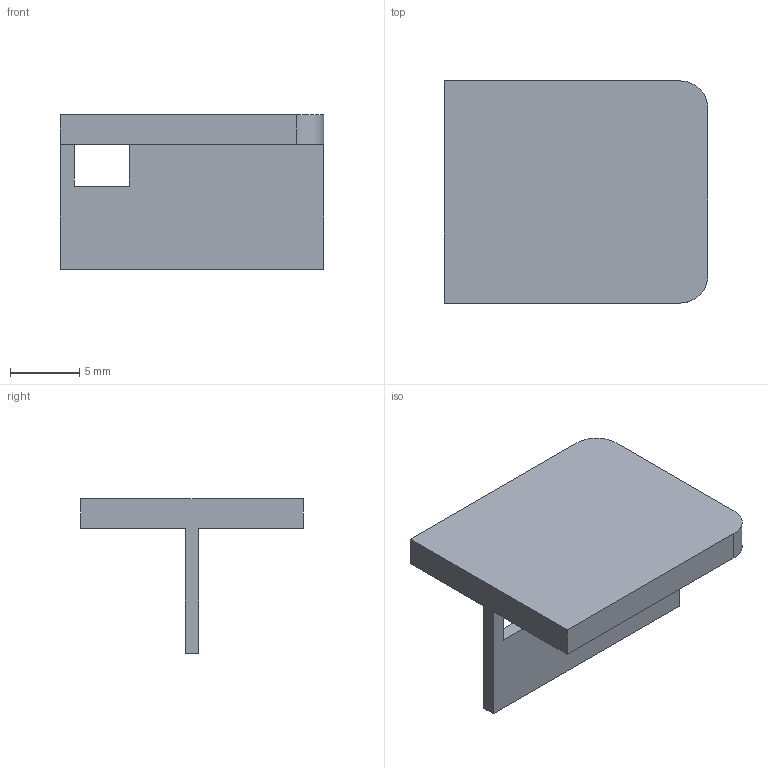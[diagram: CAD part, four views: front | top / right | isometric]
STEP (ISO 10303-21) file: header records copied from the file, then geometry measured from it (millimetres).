
FILE_DESCRIPTION(('FreeCAD Model'),'2;1');
FILE_NAME('Open CASCADE Shape Model','2026-05-04T21:27:15',(''),(''), 'Open CASCADE STEP processor 7.8','FreeCAD','Unknown');
FILE_SCHEMA(('AUTOMOTIVE_DESIGN { 1 0 10303 214 1 1 1 1 }'));
Length unit declared in the file: millimetre
Products named in the file (1): megnetholder_inside
Bounding box: 19 x 16 x 11.15 mm (x, y, z)
Volume: 782.3 mm3; surface area: 1127.5 mm2
Topology: 1 solids, 1 shells, 15 faces, 45 edges, 30 vertices
Faces by surface type: plane 12, cylinder 3
Full cylindrical faces by diameter (mm): 4.1 x1
Entity records: 535 total; most frequent: CARTESIAN_POINT 91, ORIENTED_EDGE 90, DIRECTION 87, EDGE_CURVE 45, LINE 35, VECTOR 35, VERTEX_POINT 30, AXIS2_PLACEMENT_3D 26
